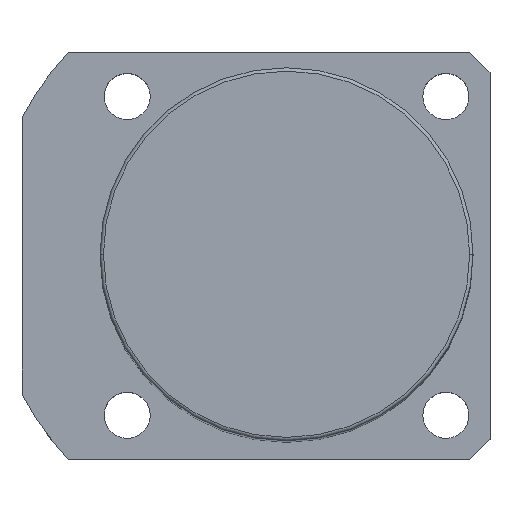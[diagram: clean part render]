
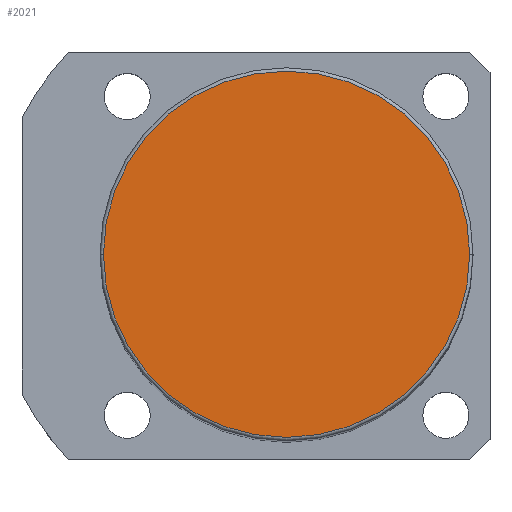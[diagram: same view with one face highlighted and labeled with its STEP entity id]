
A CAD part, top view. The second image highlights one B-rep face of the part: STEP entity #2021.
In plain terms, the highlighted planar face has unit normal (0, 0, 1).
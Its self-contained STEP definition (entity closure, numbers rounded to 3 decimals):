
#17 = PLANE ( 'NONE',  #922 ) ;
#107 = AXIS2_PLACEMENT_3D ( 'NONE', #1876, #1692, #2048 ) ;
#198 = ORIENTED_EDGE ( 'NONE', *, *, #644, .T. ) ;
#226 = CARTESIAN_POINT ( 'NONE',  ( 0., 0., 146. ) ) ;
#231 = VERTEX_POINT ( 'NONE', #2060 ) ;
#272 = CIRCLE ( 'NONE', #107, 27. ) ;
#322 = VERTEX_POINT ( 'NONE', #1538 ) ;
#644 = EDGE_CURVE ( 'NONE', #231, #322, #272, .T. ) ;
#728 = DIRECTION ( 'NONE',  ( 0., 0., 1. ) ) ;
#893 = EDGE_LOOP ( 'NONE', ( #1165, #198 ) ) ;
#922 = AXIS2_PLACEMENT_3D ( 'NONE', #226, #728, #1728 ) ;
#1113 = FACE_OUTER_BOUND ( 'NONE', #893, .T. ) ;
#1165 = ORIENTED_EDGE ( 'NONE', *, *, #1829, .T. ) ;
#1294 = CIRCLE ( 'NONE', #1938, 27. ) ;
#1538 = CARTESIAN_POINT ( 'NONE',  ( 27., 0., 146. ) ) ;
#1692 = DIRECTION ( 'NONE',  ( 0., 0., 1. ) ) ;
#1728 = DIRECTION ( 'NONE',  ( 1., 0., 0. ) ) ;
#1788 = CARTESIAN_POINT ( 'NONE',  ( 0., 0., 146. ) ) ;
#1816 = DIRECTION ( 'NONE',  ( 1., 0., 0. ) ) ;
#1829 = EDGE_CURVE ( 'NONE', #322, #231, #1294, .T. ) ;
#1876 = CARTESIAN_POINT ( 'NONE',  ( 0., 0., 146. ) ) ;
#1938 = AXIS2_PLACEMENT_3D ( 'NONE', #1788, #1964, #1816 ) ;
#1964 = DIRECTION ( 'NONE',  ( 0., 0., 1. ) ) ;
#2021 = ADVANCED_FACE ( 'NONE', ( #1113 ), #17, .T. ) ;
#2048 = DIRECTION ( 'NONE',  ( 1., 0., 0. ) ) ;
#2060 = CARTESIAN_POINT ( 'NONE',  ( -27., 0., 146. ) ) ;
